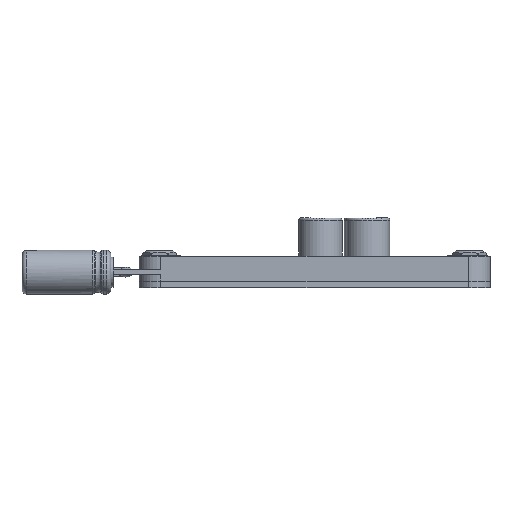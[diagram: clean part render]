
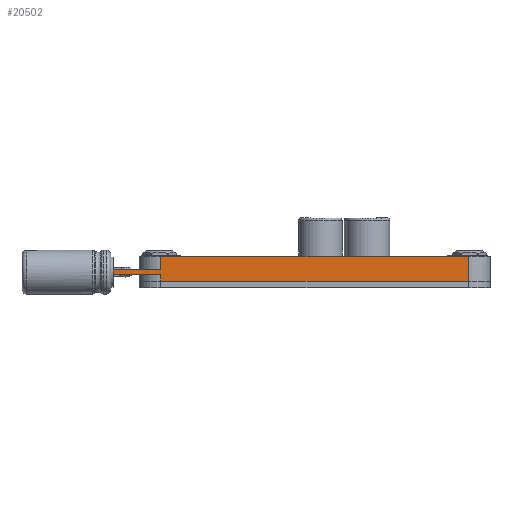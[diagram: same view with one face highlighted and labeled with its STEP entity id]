
A CAD part, front view. The second image highlights one B-rep face of the part: STEP entity #20502.
In plain terms, the highlighted planar face has unit normal (0, -1, 0).
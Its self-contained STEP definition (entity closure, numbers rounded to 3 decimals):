
#2504=PLANE('',#21467);
#3834=VECTOR('',#23905,1.);
#3996=VECTOR('',#24162,1.);
#4134=VECTOR('',#24379,1.);
#4196=VECTOR('',#24524,1.);
#4200=VECTOR('',#24529,1.);
#4201=VECTOR('',#24531,1.);
#4202=VECTOR('',#24532,1.);
#5605=LINE('',#32948,#3834);
#5767=LINE('',#33307,#3996);
#5905=LINE('',#33625,#4134);
#5967=LINE('',#33784,#4196);
#5971=LINE('',#33791,#4200);
#5972=LINE('',#33793,#4201);
#5973=LINE('',#33794,#4202);
#7596=VERTEX_POINT('',#32947);
#7597=VERTEX_POINT('',#32949);
#7713=VERTEX_POINT('',#33306);
#7714=VERTEX_POINT('',#33308);
#7829=VERTEX_POINT('',#33612);
#7835=VERTEX_POINT('',#33624);
#7875=VERTEX_POINT('',#33783);
#7876=VERTEX_POINT('',#33785);
#10582=EDGE_CURVE('',#7597,#7596,#5605,.T.);
#10757=EDGE_CURVE('',#7714,#7713,#5767,.T.);
#10915=EDGE_CURVE('',#7829,#7835,#5905,.T.);
#10991=EDGE_CURVE('',#7875,#7876,#5967,.T.);
#10995=EDGE_CURVE('',#7596,#7876,#5971,.T.);
#10996=EDGE_CURVE('',#7597,#7713,#5972,.T.);
#10997=EDGE_CURVE('',#7829,#7875,#5972,.T.);
#10998=EDGE_CURVE('',#7835,#7714,#5973,.T.);
#16475=ORIENTED_EDGE('',*,*,#10996,.F.);
#16476=ORIENTED_EDGE('',*,*,#10582,.T.);
#16477=ORIENTED_EDGE('',*,*,#10995,.T.);
#16478=ORIENTED_EDGE('',*,*,#10991,.F.);
#16479=ORIENTED_EDGE('',*,*,#10997,.F.);
#16480=ORIENTED_EDGE('',*,*,#10915,.T.);
#16481=ORIENTED_EDGE('',*,*,#10998,.T.);
#16482=ORIENTED_EDGE('',*,*,#10757,.T.);
#18114=EDGE_LOOP('',(#16475,#16476,#16477,#16478,#16479,#16480,#16481,#16482));
#19367=FACE_BOUND('',#18114,.T.);
#20502=ADVANCED_FACE('',(#19367),#2504,.T.);
#21467=AXIS2_PLACEMENT_3D('',#33792,#24530,$);
#23905=DIRECTION('',(-1.,0.,0.));
#24162=DIRECTION('',(-1.,0.,0.));
#24379=DIRECTION('',(1.,0.,0.));
#24524=DIRECTION('',(-1.,0.,0.));
#24529=DIRECTION('',(0.,0.,-1.));
#24530=DIRECTION('',(0.,-1.,0.));
#24531=DIRECTION('',(0.,0.,1.));
#24532=DIRECTION('',(0.,0.,1.));
#32947=CARTESIAN_POINT('',(-46.5,-40.5,4.1));
#32948=CARTESIAN_POINT('',(-34.5,-40.5,4.1));
#32949=CARTESIAN_POINT('',(-35.5,-40.5,4.1));
#33306=CARTESIAN_POINT('',(-35.5,-40.5,7.3));
#33307=CARTESIAN_POINT('',(-35.5,-40.5,7.3));
#33308=CARTESIAN_POINT('',(35.5,-40.5,7.3));
#33612=CARTESIAN_POINT('',(-35.5,-40.5,1.5));
#33624=CARTESIAN_POINT('',(35.5,-40.5,1.5));
#33625=CARTESIAN_POINT('',(-35.5,-40.5,1.5));
#33783=CARTESIAN_POINT('',(-35.5,-40.5,3.1));
#33784=CARTESIAN_POINT('',(-34.5,-40.5,3.1));
#33785=CARTESIAN_POINT('',(-46.5,-40.5,3.1));
#33791=CARTESIAN_POINT('',(-46.5,-40.5,3.1));
#33792=CARTESIAN_POINT('',(0.,-40.5,1.5));
#33793=CARTESIAN_POINT('',(-35.5,-40.5,1.5));
#33794=CARTESIAN_POINT('',(35.5,-40.5,1.5));
